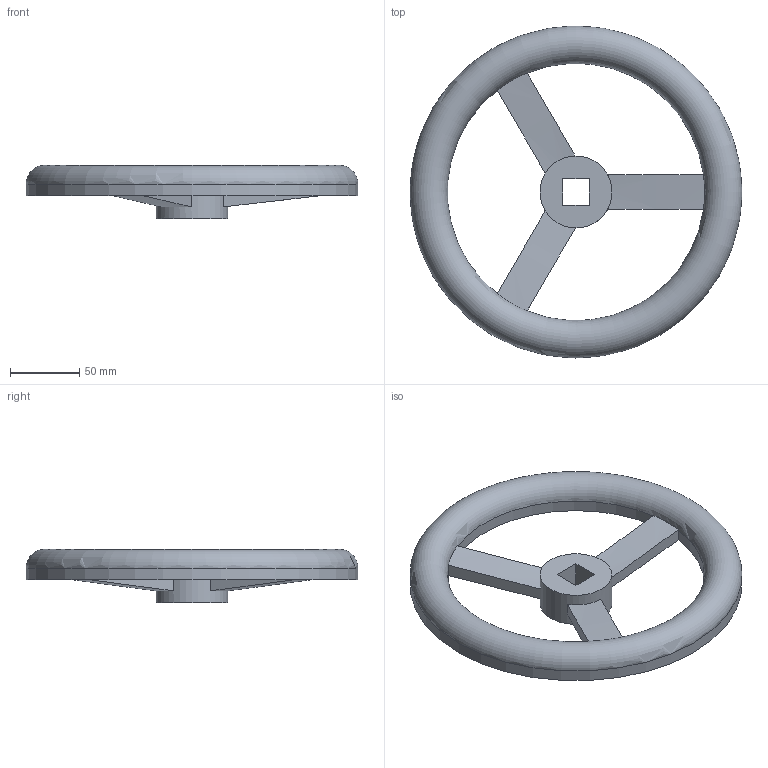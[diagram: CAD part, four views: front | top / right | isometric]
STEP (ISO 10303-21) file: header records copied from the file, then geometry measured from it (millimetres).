
FILE_DESCRIPTION( ( 'STEP AP203' ), '1' );
FILE_NAME( 'p:/temp/worker_152/temp/exporttempdir_4788_432_TQlUo/format_0/5007611 7800 DN100 (400).stp', '2021-01-13T08:47:59', ( 'License CC BY-ND 4.0' ), ( 'CADENAS' ), ' ', 'PARTsolutions', ' ' );
FILE_SCHEMA( ( 'CONFIG_CONTROL_DESIGN' ) );
Length unit declared in the file: millimetre
Products named in the file (1): _5007611 7800 DN100 (400)
Bounding box: 240 x 240 x 38.45 mm (x, y, z)
Volume: 219465.2 mm3; surface area: 99105.5 mm2
Topology: 1 solids, 1 shells, 32 faces, 81 edges, 49 vertices
Faces by surface type: plane 14, cylinder 10, cone 6, torus 2
Full cylindrical faces by diameter (mm): 52 x1, 193.2 x1, 232.8 x1, 240 x1
Entity records: 1036 total; most frequent: CARTESIAN_POINT 258, DIRECTION 154, ORIENTED_EDGE 142, EDGE_CURVE 71, AXIS2_PLACEMENT_3D 62, VERTEX_POINT 46, EDGE_LOOP 45, FACE_OUTER_BOUND 38
